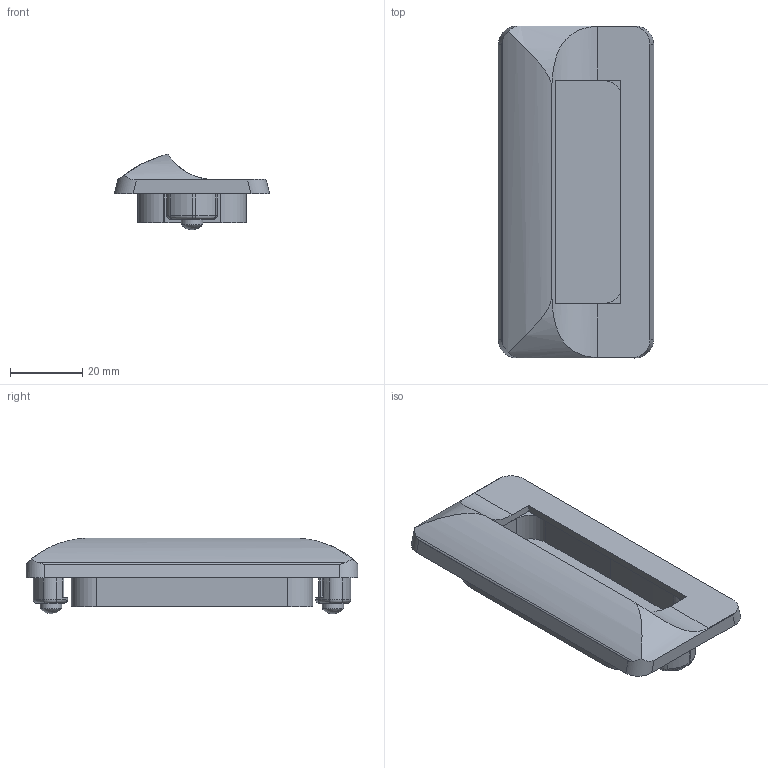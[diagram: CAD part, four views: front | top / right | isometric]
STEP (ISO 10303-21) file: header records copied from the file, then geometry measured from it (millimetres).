
FILE_DESCRIPTION((''),'2;1');
FILE_NAME('C:\Documents and Settings\ryu\바탕 화면\KA-75\3\KA-75-3.stp','2008-07-08T16:53:11',('ryu'),(''),'Autodesk Inventor 2009','Autodesk Inventor 2009','');
FILE_SCHEMA(('AUTOMOTIVE_DESIGN { 1 0 10303 214 1 1 1 1 }'));
Length unit declared in the file: millimetre
Products named in the file (5): KA-75-3; BACK COVER; BODY; BOLT; washer
Assembly tree (6 placements, depth 2):
  KA-75-3
    BACK COVER
    BODY
    BOLT  x2
    washer  x2
Bounding box: 43 x 92 x 20.95 mm (x, y, z)
Volume: 17487.7 mm3; surface area: 17741.2 mm2
Topology: 6 solids, 6 shells, 148 faces, 372 edges, 243 vertices
Faces by surface type: cylinder 65, plane 59, torus 14, bspline 8, sphere 2
Full cylindrical faces by diameter (mm): 4 x3, 4.5 x2, 6 x5
Entity records: 4232 total; most frequent: CARTESIAN_POINT 1212, DIRECTION 609, ORIENTED_EDGE 588, EDGE_CURVE 294, AXIS2_PLACEMENT_3D 224, VERTEX_POINT 199, VECTOR 161, LINE 161
